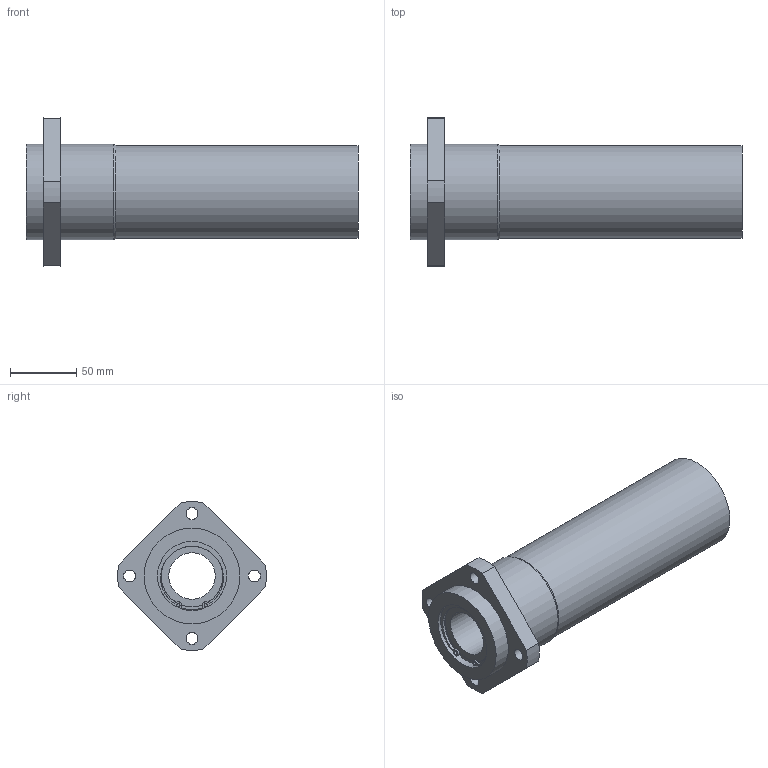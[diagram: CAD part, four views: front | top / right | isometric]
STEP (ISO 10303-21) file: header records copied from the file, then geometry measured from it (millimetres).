
FILE_DESCRIPTION((''),'2;1');
FILE_NAME('C:\Documents and Settings\土屋\My Documents\土屋移動用フォルダ\製品 (図面)\カタログ用3D\変換ファイル\OZAK_3D-CAD(STEP形式)\Part1.-Linear Bearings_ﾘﾆｱﾍﾞｱﾘﾝｸﾞ\09_Maintenance Free_ﾒｲﾝﾃﾅﾝｽﾌﾘｰ\L2017-09-22T14:07:41','2017-09-22T14:07:41',('y'),(''),'Autodesk Inventor 11','Autodesk Inventor 11','');
FILE_SCHEMA(('AUTOMOTIVE_DESIGN { 1 0 10303 214 1 1 1 1 }'));
Length unit declared in the file: millimetre
Products named in the file (1): LFWLB35AMF
Bounding box: 250 x 111.86 x 111.86 mm (x, y, z)
Volume: 769847.7 mm3; surface area: 109561.8 mm2
Topology: 1 solids, 7 shells, 97 faces, 245 edges, 152 vertices
Faces by surface type: bspline 34, cylinder 32, plane 28, torus 2, cone 1
Full cylindrical faces by diameter (mm): 2.5 x2, 9 x4, 35 x2, 46.4 x2, 49 x2, 52 x8, 70 x1, 72 x2
Entity records: 2957 total; most frequent: CARTESIAN_POINT 778, DIRECTION 468, ORIENTED_EDGE 384, AXIS2_PLACEMENT_3D 212, EDGE_CURVE 192, EDGE_LOOP 166, CIRCLE 148, VERTEX_POINT 136
